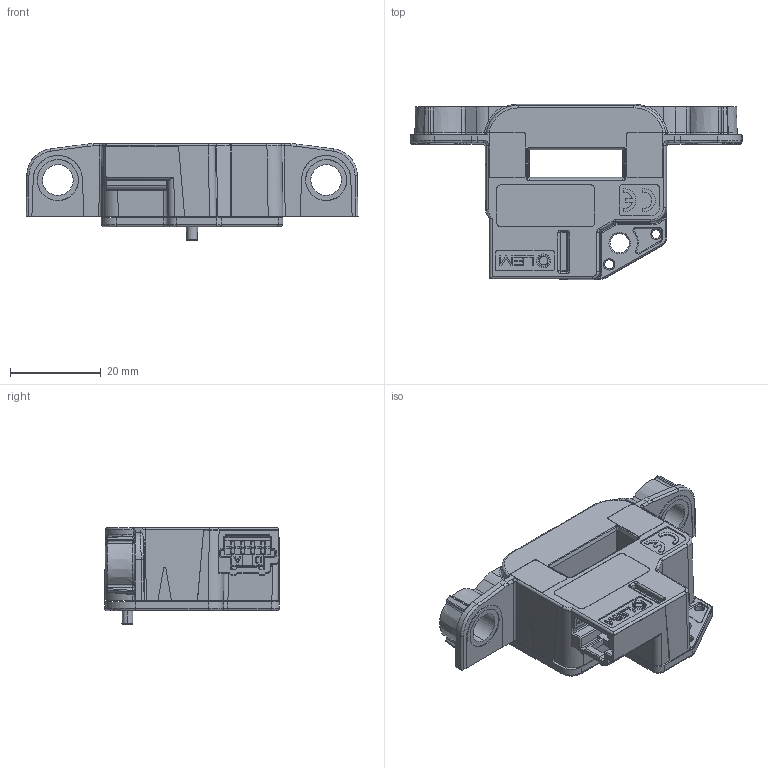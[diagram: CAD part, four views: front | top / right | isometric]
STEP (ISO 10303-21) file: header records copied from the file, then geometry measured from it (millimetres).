
FILE_DESCRIPTION(('CoCreate Modeling STEP Export'),'2;1');
FILE_NAME('BBox-HAH1BV-S24.stp','2011-08-30T10:23:33',(''),(''),'CoCreate Modeling STEP processor for AP214 (Solid Model)','CoCreate Modeling 17.0B 09-Oct-2010 (C) Parametric Technology GmbH','');
FILE_SCHEMA(('AUTOMOTIVE_DESIGN { 1 0 10303 214 1 1 1 1 }'));
Products named in the file (2): BlackBox_HAH1BV_S_24
Assembly tree (1 placements, depth 2):
  BlackBox_HAH1BV_S_24
    BlackBox_HAH1BV_S_24
Bounding box: 73 x 38.5 x 21.25 mm (x, y, z)
Volume: 20708.8 mm3; surface area: 11861.5 mm2
Topology: 1 solids, 1 shells, 2807 faces, 7749 edges, 4671 vertices
Faces by surface type: plane 1690, bspline 754, cylinder 213, torus 86, cone 43, extrusion 21
Entity records: 167143 total; most frequent: CARTESIAN_POINT 99007, ORIENTED_EDGE 15496, EDGE_CURVE 7748, DIRECTION 5486, VERTEX_POINT 4671, EDGE_LOOP 3129, FACE_OUTER_BOUND 2807, ADVANCED_FACE 2807
